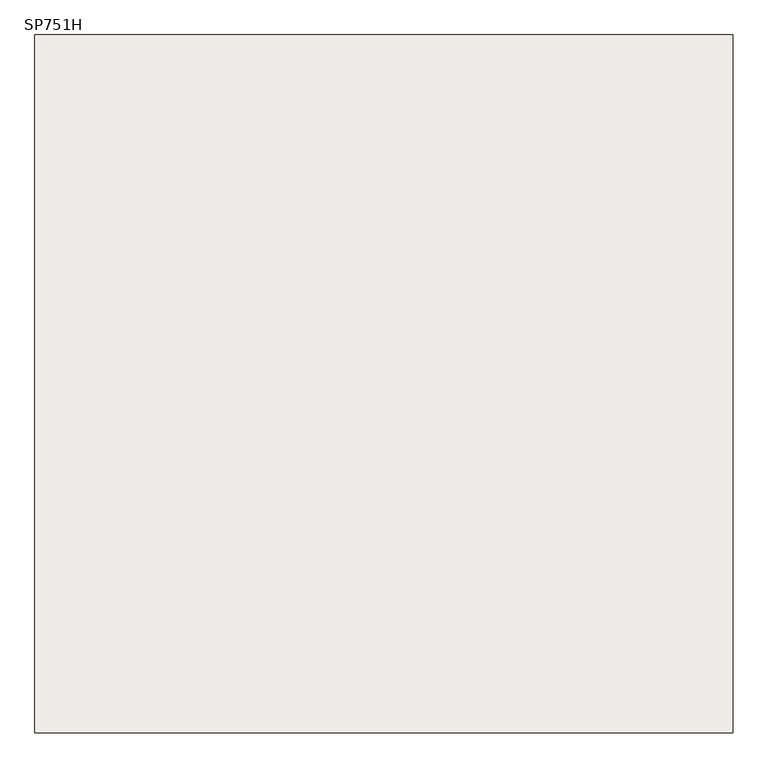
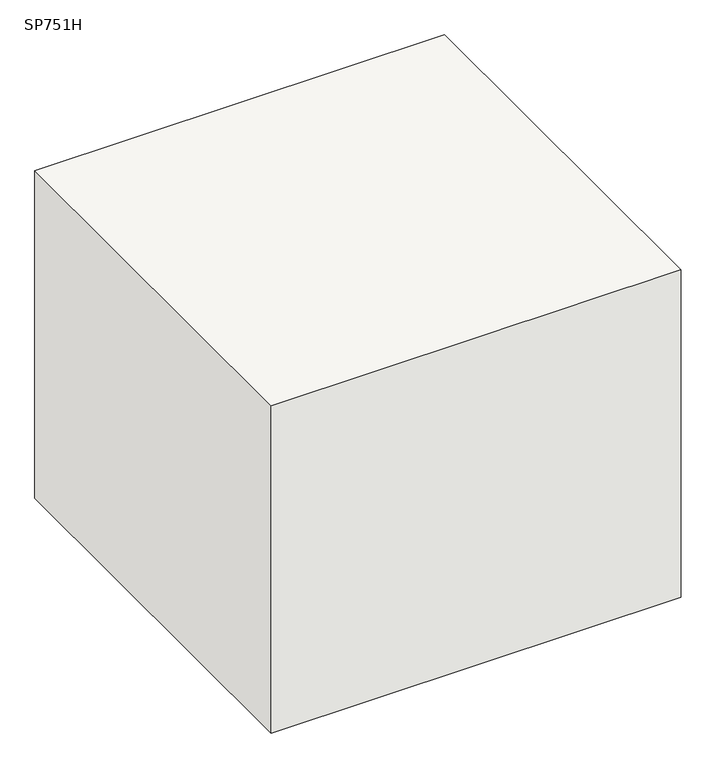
"""IFC4 building model written with IfcOpenShell, lengths in millimetres: slab geometry, 柱形_SP : SP751H."""

from ifc_helpers import new_model, si_unit, frame, origin, place, context, project, spatial, polyline, outline, extrude, source, transform, mapped, element, save


def sp751h_83db5c08(model_context):
    return source(origin(), model_context, "Body", "SweptSolid", [
        extrude(outline(polyline([(710.0, 710.0), (710.0, -710.0), (-710.0, -710.0), (-710.0, 710.0), (710.0, 710.0)])), frame((0.0, 0.0, -1200.0), z_axis=(0.0, 0.0, 1.0), x_axis=(1.0, 0.0, 0.0)), (0.0, 0.0, 1.0), 1200.0),
    ])


if __name__ == "__main__":
    model = new_model("IFC4")
    model_context = context("Model", 3, world=origin())
    ifc_project = project(units=[si_unit("LENGTHUNIT", "METRE", prefix="MILLI")], contexts=[model_context])
    site = spatial("IfcSite", under=ifc_project)
    building = spatial("IfcBuilding", under=site)
    placement = place(None, origin())
    sp751h_shape = sp751h_83db5c08(model_context)
    element("IfcSlab", 1, ObjectType="柱形_SP : SP751H", at=placement, inside=building, context=model_context, shape_type="MappedRepresentation", body=[
        mapped(sp751h_shape, transform((0.0, 0.0, 0.0), x_axis=(1.0, 0.0, 0.0), y_axis=(0.0, 1.0, 0.0), z_axis=(0.0, 0.0, 1.0))),
    ])
    save(model, "model.ifc")
